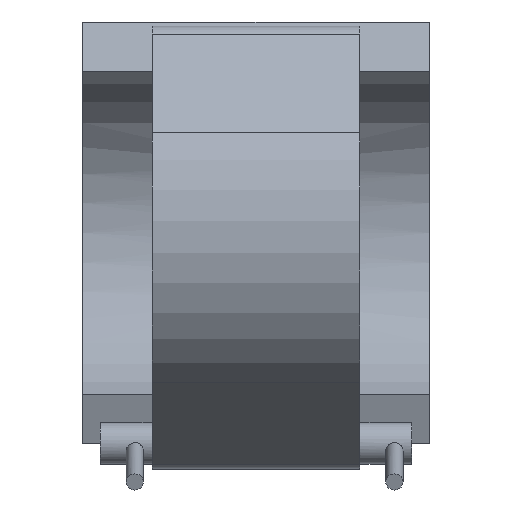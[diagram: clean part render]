
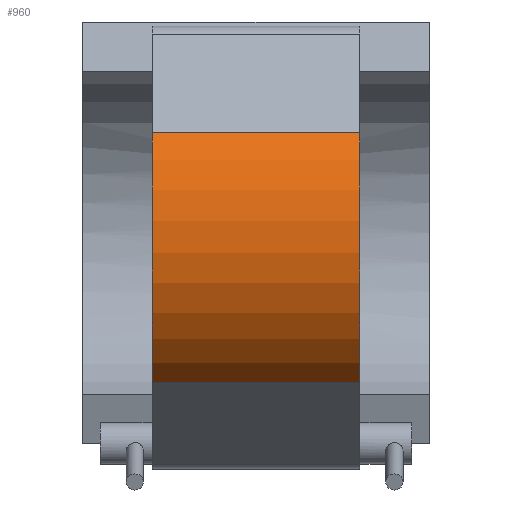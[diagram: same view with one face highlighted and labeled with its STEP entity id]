
A CAD part, front view. The second image highlights one B-rep face of the part: STEP entity #960.
In plain terms, the highlighted cylindrical face has radius 91.612 mm (diameter 183.225 mm), a partial arc.
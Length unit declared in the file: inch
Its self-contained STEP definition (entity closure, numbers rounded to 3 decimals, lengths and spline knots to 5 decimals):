
#138=FACE_OUTER_BOUND('',#215,.T.);
#215=EDGE_LOOP('',(#848,#849,#850,#851));
#275=LINE('',#2007,#336);
#276=LINE('',#2011,#337);
#336=VECTOR('',#1347,0.3937);
#337=VECTOR('',#1352,0.3937);
#391=CIRCLE('',#1082,3.60679);
#394=CIRCLE('',#1087,3.60679);
#477=VERTEX_POINT('',#1991);
#478=VERTEX_POINT('',#1993);
#483=VERTEX_POINT('',#2005);
#484=VERTEX_POINT('',#2009);
#601=EDGE_CURVE('',#477,#478,#391,.T.);
#608=EDGE_CURVE('',#477,#483,#275,.T.);
#609=EDGE_CURVE('',#484,#483,#394,.T.);
#610=EDGE_CURVE('',#478,#484,#276,.T.);
#848=ORIENTED_EDGE('',*,*,#608,.T.);
#849=ORIENTED_EDGE('',*,*,#609,.F.);
#850=ORIENTED_EDGE('',*,*,#610,.F.);
#851=ORIENTED_EDGE('',*,*,#601,.F.);
#906=CYLINDRICAL_SURFACE('',#1086,3.60679);
#960=ADVANCED_FACE('',(#138),#906,.T.);
#1082=AXIS2_PLACEMENT_3D('',#1994,#1335,#1336);
#1086=AXIS2_PLACEMENT_3D('',#2008,#1348,#1349);
#1087=AXIS2_PLACEMENT_3D('',#2010,#1350,#1351);
#1335=DIRECTION('center_axis',(-1.,0.,0.));
#1336=DIRECTION('ref_axis',(0.,-0.831,0.556));
#1347=DIRECTION('',(1.,0.,0.));
#1348=DIRECTION('center_axis',(1.,0.,0.));
#1349=DIRECTION('ref_axis',(0.,-0.831,0.556));
#1350=DIRECTION('center_axis',(1.,0.,0.));
#1351=DIRECTION('ref_axis',(0.,-0.831,0.556));
#1352=DIRECTION('',(1.,0.,0.));
#1991=CARTESIAN_POINT('',(-5.544,-2.00433,-2.9986));
#1993=CARTESIAN_POINT('',(-5.544,-2.99833,2.00473));
#1994=CARTESIAN_POINT('Origin',(-5.544,0.,0.));
#2005=CARTESIAN_POINT('',(-1.386,-2.00433,-2.9986));
#2007=CARTESIAN_POINT('',(-3.465,-2.00433,-2.9986));
#2008=CARTESIAN_POINT('Origin',(-3.465,0.,0.));
#2009=CARTESIAN_POINT('',(-1.386,-2.99833,2.00473));
#2010=CARTESIAN_POINT('Origin',(-1.386,0.,0.));
#2011=CARTESIAN_POINT('',(-3.465,-2.99833,2.00473));
